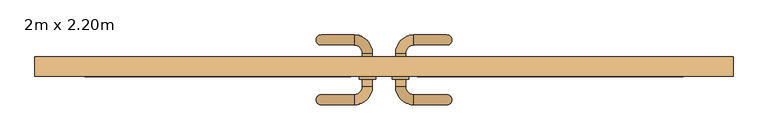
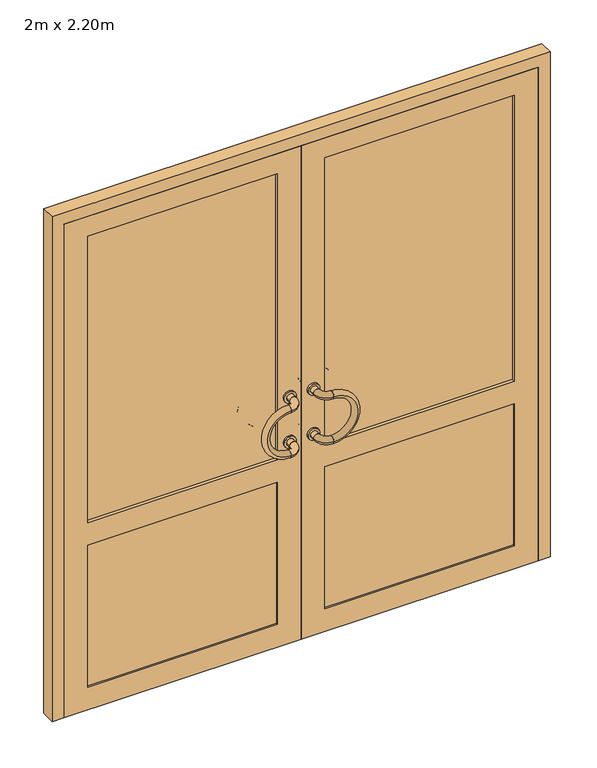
"""IFC4 building model written with IfcOpenShell, lengths in millimetres: door geometry, PVC Double - Panneaux vitrés haut : 2m x 2.20m."""

from ifc_helpers import new_model, si_unit, point, frame, frame_2d, origin, place, context, project, spatial, polyline, circle_curve, ellipse_curve, trimmed, segment, composite_curve, outline, extrude, faceted_brep, source, transform, mapped, element, save
from ifc_brep_helpers import plane_surface, revolved_surface, advanced_brep


def door_2m_x_2_20m_0dc4434d(model_context):
    return source(origin(), model_context, "Body", "SolidModel", [
        extrude(outline(composite_curve([segment(trimmed(circle_curve(frame_2d((1100.0, -50.0)), 25.0), [point((1100.0, -25.0))], [point((1100.0, -75.0))], False, "CARTESIAN"), True, "CONTINUOUS"), segment(trimmed(circle_curve(frame_2d((1100.0, -50.0)), 25.0), [point((1100.0, -75.0))], [point((1100.0, -25.0))], False, "CARTESIAN"), True, "CONTINUOUS")], self_intersect=False), holes=[composite_curve([segment(trimmed(circle_curve(frame_2d((1100.0, -50.0)), 15.0), [point((1100.0, -35.0))], [point((1100.0, -65.0))], True, "CARTESIAN"), True, "CONTINUOUS"), segment(trimmed(circle_curve(frame_2d((1100.0, -50.0)), 15.0), [point((1100.0, -65.0))], [point((1100.0, -35.0))], True, "CARTESIAN"), True, "CONTINUOUS")], self_intersect=False)]), frame((0.0, 5.0, 0.0), z_axis=(0.0, 1.0, 0.0), x_axis=(0.0, 0.0, 1.0)), (0.0, 0.0, 1.0), 8.0),
        extrude(outline(composite_curve([segment(trimmed(circle_curve(frame_2d((900.0, -50.0)), 25.0), [point((900.0, -25.0))], [point((900.0, -75.0))], False, "CARTESIAN"), True, "CONTINUOUS"), segment(trimmed(circle_curve(frame_2d((900.0, -50.0)), 25.0), [point((900.0, -75.0))], [point((900.0, -25.0))], False, "CARTESIAN"), True, "CONTINUOUS")], self_intersect=False), holes=[composite_curve([segment(trimmed(circle_curve(frame_2d((900.0, -50.0)), 15.0), [point((900.0, -35.0))], [point((900.0, -65.0))], True, "CARTESIAN"), True, "CONTINUOUS"), segment(trimmed(circle_curve(frame_2d((900.0, -50.0)), 15.0), [point((900.0, -65.0))], [point((900.0, -35.0))], True, "CARTESIAN"), True, "CONTINUOUS")], self_intersect=False)]), frame((0.0, 5.0, 0.0), z_axis=(0.0, 1.0, 0.0), x_axis=(0.0, 0.0, 1.0)), (0.0, 0.0, 1.0), 8.0),
        extrude(outline(composite_curve([segment(trimmed(circle_curve(frame_2d((1100.0, -50.0)), 25.0), [point((1100.0, -25.0))], [point((1100.0, -75.0))], False, "CARTESIAN"), True, "CONTINUOUS"), segment(trimmed(circle_curve(frame_2d((1100.0, -50.0)), 25.0), [point((1100.0, -75.0))], [point((1100.0, -25.0))], False, "CARTESIAN"), True, "CONTINUOUS")], self_intersect=False), holes=[composite_curve([segment(trimmed(circle_curve(frame_2d((1100.0, -50.0)), 15.0), [point((1100.0, -35.0))], [point((1100.0, -65.0))], True, "CARTESIAN"), True, "CONTINUOUS"), segment(trimmed(circle_curve(frame_2d((1100.0, -50.0)), 15.0), [point((1100.0, -65.0))], [point((1100.0, -35.0))], True, "CARTESIAN"), True, "CONTINUOUS")], self_intersect=False)]), frame((0.0, -43.0, 0.0), z_axis=(0.0, 1.0, 0.0), x_axis=(0.0, 0.0, 1.0)), (0.0, 0.0, 1.0), 8.0),
        extrude(outline(composite_curve([segment(trimmed(circle_curve(frame_2d((900.0, -50.0)), 25.0), [point((900.0, -25.0))], [point((900.0, -75.0))], False, "CARTESIAN"), True, "CONTINUOUS"), segment(trimmed(circle_curve(frame_2d((900.0, -50.0)), 25.0), [point((900.0, -75.0))], [point((900.0, -25.0))], False, "CARTESIAN"), True, "CONTINUOUS")], self_intersect=False), holes=[composite_curve([segment(trimmed(circle_curve(frame_2d((900.0, -50.0)), 15.0), [point((900.0, -35.0))], [point((900.0, -65.0))], True, "CARTESIAN"), True, "CONTINUOUS"), segment(trimmed(circle_curve(frame_2d((900.0, -50.0)), 15.0), [point((900.0, -65.0))], [point((900.0, -35.0))], True, "CARTESIAN"), True, "CONTINUOUS")], self_intersect=False)]), frame((0.0, -43.0, 0.0), z_axis=(0.0, 1.0, 0.0), x_axis=(0.0, 0.0, 1.0)), (0.0, 0.0, 1.0), 8.0),
        advanced_brep(
        [(-90.0, 90.0, 1100.0), (-90.0, 60.0, 1100.0), (-90.0, 90.0, 900.0), (-90.0, 60.0, 900.0)],
        [
            (0, 1, circle_curve(frame((-90.0, 75.0, 1100.0), z_axis=(1.0, 0.0, 0.0), x_axis=(0.0, -1.0, 0.0)), 15.0)),
            (1, 0, circle_curve(frame((-90.0, 75.0, 1100.0), z_axis=(1.0, 0.0, 0.0), x_axis=(0.0, -1.0, 0.0)), 15.0)),
            (2, 3, circle_curve(frame((-90.0, 75.0, 900.0), z_axis=(1.0, 0.0, 0.0), x_axis=(0.0, -1.0, 0.0)), 15.0)),
            (3, 2, circle_curve(frame((-90.0, 75.0, 900.0), z_axis=(1.0, 0.0, 0.0), x_axis=(0.0, -1.0, 0.0)), 15.0)),
            (2, 0, circle_curve(frame((-90.0, 90.0, 1000.0), z_axis=(0.0, 1.0, 0.0), x_axis=(0.0, 0.0, 1.0)), 100.0)),
            (1, 3, circle_curve(frame((-90.0, 60.0, 1000.0), z_axis=(0.0, -1.0, 0.0), x_axis=(0.0, 0.0, 1.0)), 100.0)),
        ],
        [
            plane_surface(frame((-90.0, 75.0, 1000.0), z_axis=(1.0, 0.0, 0.0), x_axis=(0.0, 0.0, 1.0))),
            plane_surface(frame((-90.0, 75.0, 1000.0), z_axis=(1.0, 0.0, 0.0), x_axis=(0.0, 0.0, -1.0))),
            revolved_surface(trimmed(ellipse_curve(frame((-90.0, 75.0, 1100.0), z_axis=(-1.0, 0.0, 0.0), x_axis=(0.0, -1.0, 0.0)), 15.0, 15.0), [point((-90.0, 90.0, 1100.0))], [point((-90.0, 60.0, 1100.0))], True, "CARTESIAN"), (-90.0, 75.0, 1000.0), (0.0, 1.0, 0.0)),
            revolved_surface(trimmed(ellipse_curve(frame((-90.0, 75.0, 1100.0), z_axis=(-1.0, 0.0, 0.0), x_axis=(0.0, -1.0, 0.0)), 15.0, 15.0), [point((-90.0, 60.0, 1100.0))], [point((-90.0, 90.0, 1100.0))], True, "CARTESIAN"), (-90.0, 75.0, 1000.0), (0.0, 1.0, 0.0)),
        ],
        [
            (0, [[1, 2]]),
            (1, [[3, 4]]),
            (2, [[-3, 5, -2, 6]]),
            (3, [[-4, -6, -1, -5]]),
        ],
    ),
        advanced_brep(
        [(-65.0, 35.0, 1100.0), (-35.0, 35.0, 1100.0), (-90.0, 60.0, 1100.0), (-90.0, 90.0, 1100.0)],
        [
            (0, 1, circle_curve(frame((-50.0, 35.0, 1100.0), z_axis=(0.0, -1.0, 0.0), x_axis=(1.0, 0.0, 0.0)), 15.0)),
            (1, 0, circle_curve(frame((-50.0, 35.0, 1100.0), z_axis=(0.0, -1.0, 0.0), x_axis=(1.0, 0.0, 0.0)), 15.0)),
            (2, 3, circle_curve(frame((-90.0, 75.0, 1100.0), z_axis=(-1.0, 0.0, 0.0), x_axis=(0.0, 1.0, 0.0)), 15.0)),
            (3, 2, circle_curve(frame((-90.0, 75.0, 1100.0), z_axis=(-1.0, 0.0, 0.0), x_axis=(0.0, 1.0, 0.0)), 15.0)),
            (2, 0, circle_curve(frame((-90.0, 35.0, 1100.0), z_axis=(0.0, 0.0, -1.0), x_axis=(1.0, 0.0, 0.0)), 25.0)),
            (1, 3, circle_curve(frame((-90.0, 35.0, 1100.0), z_axis=(0.0, 0.0, 1.0), x_axis=(1.0, 0.0, 0.0)), 55.0)),
        ],
        [
            plane_surface(frame((-90.0, 35.0, 1100.0), z_axis=(0.0, -1.0, 0.0), x_axis=(1.0, 0.0, 0.0))),
            plane_surface(frame((-90.0, 35.0, 1100.0), z_axis=(-1.0, 0.0, 0.0), x_axis=(0.0, 1.0, 0.0))),
            revolved_surface(trimmed(ellipse_curve(frame((-50.0, 35.0, 1100.0), z_axis=(0.0, 1.0, 0.0), x_axis=(1.0, 0.0, 0.0)), 15.0, 15.0), [point((-65.0, 35.0, 1100.0))], [point((-35.0, 35.0, 1100.0))], True, "CARTESIAN"), (-90.0, 35.0, 1100.0), (0.0, 0.0, -1.0)),
            revolved_surface(trimmed(ellipse_curve(frame((-50.0, 35.0, 1100.0), z_axis=(0.0, 1.0, 0.0), x_axis=(1.0, 0.0, 0.0)), 15.0, 15.0), [point((-35.0, 35.0, 1100.0))], [point((-65.0, 35.0, 1100.0))], True, "CARTESIAN"), (-90.0, 35.0, 1100.0), (0.0, 0.0, -1.0)),
        ],
        [
            (0, [[1, 2]]),
            (1, [[3, 4]]),
            (2, [[-3, 5, -2, 6]]),
            (3, [[-4, -6, -1, -5]]),
        ],
    ),
        advanced_brep(
        [(-65.0, 35.0, 900.0), (-35.0, 35.0, 900.0), (-90.0, 60.0, 900.0), (-90.0, 90.0, 900.0)],
        [
            (0, 1, circle_curve(frame((-50.0, 35.0, 900.0), z_axis=(0.0, -1.0, 0.0), x_axis=(1.0, 0.0, 0.0)), 15.0)),
            (1, 0, circle_curve(frame((-50.0, 35.0, 900.0), z_axis=(0.0, -1.0, 0.0), x_axis=(1.0, 0.0, 0.0)), 15.0)),
            (2, 3, circle_curve(frame((-90.0, 75.0, 900.0), z_axis=(-1.0, 0.0, 0.0), x_axis=(0.0, 1.0, 0.0)), 15.0)),
            (3, 2, circle_curve(frame((-90.0, 75.0, 900.0), z_axis=(-1.0, 0.0, 0.0), x_axis=(0.0, 1.0, 0.0)), 15.0)),
            (2, 0, circle_curve(frame((-90.0, 35.0, 900.0), z_axis=(0.0, 0.0, -1.0), x_axis=(1.0, 0.0, 0.0)), 25.0)),
            (1, 3, circle_curve(frame((-90.0, 35.0, 900.0), z_axis=(0.0, 0.0, 1.0), x_axis=(1.0, 0.0, 0.0)), 55.0)),
        ],
        [
            plane_surface(frame((-90.0, 35.0, 1100.0), z_axis=(0.0, -1.0, 0.0), x_axis=(1.0, 0.0, 0.0))),
            plane_surface(frame((-90.0, 35.0, 1100.0), z_axis=(-1.0, 0.0, 0.0), x_axis=(0.0, 1.0, 0.0))),
            revolved_surface(trimmed(ellipse_curve(frame((-50.0, 35.0, 900.0), z_axis=(0.0, 1.0, 0.0), x_axis=(1.0, 0.0, 0.0)), 15.0, 15.0), [point((-65.0, 35.0, 900.0))], [point((-35.0, 35.0, 900.0))], True, "CARTESIAN"), (-90.0, 35.0, 1100.0), (0.0, 0.0, -1.0)),
            revolved_surface(trimmed(ellipse_curve(frame((-50.0, 35.0, 900.0), z_axis=(0.0, 1.0, 0.0), x_axis=(1.0, 0.0, 0.0)), 15.0, 15.0), [point((-35.0, 35.0, 900.0))], [point((-65.0, 35.0, 900.0))], True, "CARTESIAN"), (-90.0, 35.0, 1100.0), (0.0, 0.0, -1.0)),
        ],
        [
            (0, [[1, 2]]),
            (1, [[3, 4]]),
            (2, [[-3, 5, -2, 6]]),
            (3, [[-4, -6, -1, -5]]),
        ],
    ),
        extrude(outline(composite_curve([segment(trimmed(circle_curve(frame_2d((1100.0, -50.0)), 15.0), [point((1100.0, -35.0))], [point((1100.0, -65.0))], False, "CARTESIAN"), True, "CONTINUOUS"), segment(trimmed(circle_curve(frame_2d((1100.0, -50.0)), 15.0), [point((1100.0, -65.0))], [point((1100.0, -35.0))], False, "CARTESIAN"), True, "CONTINUOUS")], self_intersect=False)), frame((0.0, 5.0, 0.0), z_axis=(0.0, 1.0, 0.0), x_axis=(0.0, 0.0, 1.0)), (0.0, 0.0, 1.0), 30.0),
        extrude(outline(composite_curve([segment(trimmed(circle_curve(frame_2d((900.0, -50.0)), 15.0), [point((900.0, -35.0))], [point((900.0, -65.0))], False, "CARTESIAN"), True, "CONTINUOUS"), segment(trimmed(circle_curve(frame_2d((900.0, -50.0)), 15.0), [point((900.0, -65.0))], [point((900.0, -35.0))], False, "CARTESIAN"), True, "CONTINUOUS")], self_intersect=False)), frame((0.0, 5.0, 0.0), z_axis=(0.0, 1.0, 0.0), x_axis=(0.0, 0.0, 1.0)), (0.0, 0.0, 1.0), 30.0),
        advanced_brep(
        [(-90.0, -90.0, 1100.0), (-90.0, -120.0, 1100.0), (-90.0, -90.0, 900.0), (-90.0, -120.0, 900.0)],
        [
            (0, 1, circle_curve(frame((-90.0, -105.0, 1100.0), z_axis=(1.0, 0.0, 0.0), x_axis=(0.0, -1.0, 0.0)), 15.0)),
            (1, 0, circle_curve(frame((-90.0, -105.0, 1100.0), z_axis=(1.0, 0.0, 0.0), x_axis=(0.0, -1.0, 0.0)), 15.0)),
            (2, 3, circle_curve(frame((-90.0, -105.0, 900.0), z_axis=(1.0, 0.0, 0.0), x_axis=(0.0, -1.0, 0.0)), 15.0)),
            (3, 2, circle_curve(frame((-90.0, -105.0, 900.0), z_axis=(1.0, 0.0, 0.0), x_axis=(0.0, -1.0, 0.0)), 15.0)),
            (2, 0, circle_curve(frame((-90.0, -90.0, 1000.0), z_axis=(0.0, 1.0, 0.0), x_axis=(0.0, 0.0, 1.0)), 100.0)),
            (1, 3, circle_curve(frame((-90.0, -120.0, 1000.0), z_axis=(0.0, -1.0, 0.0), x_axis=(0.0, 0.0, 1.0)), 100.0)),
        ],
        [
            plane_surface(frame((-90.0, -120.0, 1000.0), z_axis=(1.0, 0.0, 0.0), x_axis=(0.0, 0.0, 1.0))),
            plane_surface(frame((-90.0, -120.0, 1000.0), z_axis=(1.0, 0.0, 0.0), x_axis=(0.0, 0.0, -1.0))),
            revolved_surface(trimmed(ellipse_curve(frame((-90.0, -105.0, 1100.0), z_axis=(-1.0, 0.0, 0.0), x_axis=(0.0, -1.0, 0.0)), 15.0, 15.0), [point((-90.0, -90.0, 1100.0))], [point((-90.0, -120.0, 1100.0))], True, "CARTESIAN"), (-90.0, -120.0, 1000.0), (0.0, 1.0, 0.0)),
            revolved_surface(trimmed(ellipse_curve(frame((-90.0, -105.0, 1100.0), z_axis=(-1.0, 0.0, 0.0), x_axis=(0.0, -1.0, 0.0)), 15.0, 15.0), [point((-90.0, -120.0, 1100.0))], [point((-90.0, -90.0, 1100.0))], True, "CARTESIAN"), (-90.0, -120.0, 1000.0), (0.0, 1.0, 0.0)),
        ],
        [
            (0, [[1, 2]]),
            (1, [[3, 4]]),
            (2, [[-3, 5, -2, 6]]),
            (3, [[-4, -6, -1, -5]]),
        ],
    ),
        advanced_brep(
        [(-35.0, -65.0, 1100.0), (-65.0, -65.0, 1100.0), (-90.0, -120.0, 1100.0), (-90.0, -90.0, 1100.0)],
        [
            (0, 1, circle_curve(frame((-50.0, -65.0, 1100.0), z_axis=(0.0, 1.0, 0.0), x_axis=(-1.0, 0.0, 0.0)), 15.0)),
            (1, 0, circle_curve(frame((-50.0, -65.0, 1100.0), z_axis=(0.0, 1.0, 0.0), x_axis=(-1.0, 0.0, 0.0)), 15.0)),
            (2, 3, circle_curve(frame((-90.0, -105.0, 1100.0), z_axis=(-1.0, 0.0, 0.0), x_axis=(0.0, 1.0, 0.0)), 15.0)),
            (3, 2, circle_curve(frame((-90.0, -105.0, 1100.0), z_axis=(-1.0, 0.0, 0.0), x_axis=(0.0, 1.0, 0.0)), 15.0)),
            (2, 0, circle_curve(frame((-90.0, -65.0, 1100.0), z_axis=(0.0, 0.0, 1.0), x_axis=(1.0, 0.0, 0.0)), 55.0)),
            (1, 3, circle_curve(frame((-90.0, -65.0, 1100.0), z_axis=(0.0, 0.0, -1.0), x_axis=(1.0, 0.0, 0.0)), 25.0)),
        ],
        [
            plane_surface(frame((-90.0, -65.0, 1100.0), z_axis=(0.0, 1.0, 0.0), x_axis=(1.0, 0.0, 0.0))),
            plane_surface(frame((-90.0, -65.0, 1100.0), z_axis=(-1.0, 0.0, 0.0), x_axis=(0.0, -1.0, 0.0))),
            revolved_surface(trimmed(ellipse_curve(frame((-50.0, -65.0, 1100.0), z_axis=(0.0, -1.0, 0.0), x_axis=(-1.0, 0.0, 0.0)), 15.0, 15.0), [point((-35.0, -65.0, 1100.0))], [point((-65.0, -65.0, 1100.0))], True, "CARTESIAN"), (-90.0, -65.0, 1100.0), (0.0, 0.0, 1.0)),
            revolved_surface(trimmed(ellipse_curve(frame((-50.0, -65.0, 1100.0), z_axis=(0.0, -1.0, 0.0), x_axis=(-1.0, 0.0, 0.0)), 15.0, 15.0), [point((-65.0, -65.0, 1100.0))], [point((-35.0, -65.0, 1100.0))], True, "CARTESIAN"), (-90.0, -65.0, 1100.0), (0.0, 0.0, 1.0)),
        ],
        [
            (0, [[1, 2]]),
            (1, [[3, 4]]),
            (2, [[-3, 5, -2, 6]]),
            (3, [[-4, -6, -1, -5]]),
        ],
    ),
        advanced_brep(
        [(-35.0, -65.0, 900.0), (-65.0, -65.0, 900.0), (-90.0, -120.0, 900.0), (-90.0, -90.0, 900.0)],
        [
            (0, 1, circle_curve(frame((-50.0, -65.0, 900.0), z_axis=(0.0, 1.0, 0.0), x_axis=(-1.0, 0.0, 0.0)), 15.0)),
            (1, 0, circle_curve(frame((-50.0, -65.0, 900.0), z_axis=(0.0, 1.0, 0.0), x_axis=(-1.0, 0.0, 0.0)), 15.0)),
            (2, 3, circle_curve(frame((-90.0, -105.0, 900.0), z_axis=(-1.0, 0.0, 0.0), x_axis=(0.0, 1.0, 0.0)), 15.0)),
            (3, 2, circle_curve(frame((-90.0, -105.0, 900.0), z_axis=(-1.0, 0.0, 0.0), x_axis=(0.0, 1.0, 0.0)), 15.0)),
            (2, 0, circle_curve(frame((-90.0, -65.0, 900.0), z_axis=(0.0, 0.0, 1.0), x_axis=(1.0, 0.0, 0.0)), 55.0)),
            (1, 3, circle_curve(frame((-90.0, -65.0, 900.0), z_axis=(0.0, 0.0, -1.0), x_axis=(1.0, 0.0, 0.0)), 25.0)),
        ],
        [
            plane_surface(frame((-90.0, -65.0, 1100.0), z_axis=(0.0, 1.0, 0.0), x_axis=(1.0, 0.0, 0.0))),
            plane_surface(frame((-90.0, -65.0, 1100.0), z_axis=(-1.0, 0.0, 0.0), x_axis=(0.0, -1.0, 0.0))),
            revolved_surface(trimmed(ellipse_curve(frame((-50.0, -65.0, 900.0), z_axis=(0.0, -1.0, 0.0), x_axis=(-1.0, 0.0, 0.0)), 15.0, 15.0), [point((-35.0, -65.0, 900.0))], [point((-65.0, -65.0, 900.0))], True, "CARTESIAN"), (-90.0, -65.0, 1100.0), (0.0, 0.0, 1.0)),
            revolved_surface(trimmed(ellipse_curve(frame((-50.0, -65.0, 900.0), z_axis=(0.0, -1.0, 0.0), x_axis=(-1.0, 0.0, 0.0)), 15.0, 15.0), [point((-65.0, -65.0, 900.0))], [point((-35.0, -65.0, 900.0))], True, "CARTESIAN"), (-90.0, -65.0, 1100.0), (0.0, 0.0, 1.0)),
        ],
        [
            (0, [[1, 2]]),
            (1, [[3, 4]]),
            (2, [[-3, 5, -2, 6]]),
            (3, [[-4, -6, -1, -5]]),
        ],
    ),
        extrude(outline(composite_curve([segment(trimmed(circle_curve(frame_2d((1100.0, -50.0)), 15.0), [point((1100.0, -35.0))], [point((1100.0, -65.0))], False, "CARTESIAN"), True, "CONTINUOUS"), segment(trimmed(circle_curve(frame_2d((1100.0, -50.0)), 15.0), [point((1100.0, -65.0))], [point((1100.0, -35.0))], False, "CARTESIAN"), True, "CONTINUOUS")], self_intersect=False)), frame((0.0, -65.0, 0.0), z_axis=(0.0, 1.0, 0.0), x_axis=(0.0, 0.0, 1.0)), (0.0, 0.0, 1.0), 30.0),
        extrude(outline(composite_curve([segment(trimmed(circle_curve(frame_2d((900.0, -50.0)), 15.0), [point((900.0, -35.0))], [point((900.0, -65.0))], False, "CARTESIAN"), True, "CONTINUOUS"), segment(trimmed(circle_curve(frame_2d((900.0, -50.0)), 15.0), [point((900.0, -65.0))], [point((900.0, -35.0))], False, "CARTESIAN"), True, "CONTINUOUS")], self_intersect=False)), frame((0.0, -65.0, 0.0), z_axis=(0.0, 1.0, 0.0), x_axis=(0.0, 0.0, 1.0)), (0.0, 0.0, 1.0), 30.0),
        extrude(outline(composite_curve([segment(trimmed(circle_curve(frame_2d((1100.0, 50.0)), 25.0), [point((1100.0, 25.0))], [point((1100.0, 75.0))], False, "CARTESIAN"), True, "CONTINUOUS"), segment(trimmed(circle_curve(frame_2d((1100.0, 50.0)), 25.0), [point((1100.0, 75.0))], [point((1100.0, 25.0))], False, "CARTESIAN"), True, "CONTINUOUS")], self_intersect=False), holes=[composite_curve([segment(trimmed(circle_curve(frame_2d((1100.0, 50.0)), 15.0), [point((1100.0, 35.0))], [point((1100.0, 65.0))], True, "CARTESIAN"), True, "CONTINUOUS"), segment(trimmed(circle_curve(frame_2d((1100.0, 50.0)), 15.0), [point((1100.0, 65.0))], [point((1100.0, 35.0))], True, "CARTESIAN"), True, "CONTINUOUS")], self_intersect=False)]), frame((0.0, 5.0, 0.0), z_axis=(0.0, 1.0, 0.0), x_axis=(0.0, 0.0, 1.0)), (0.0, 0.0, 1.0), 8.0),
        extrude(outline(composite_curve([segment(trimmed(circle_curve(frame_2d((900.0, 50.0)), 25.0), [point((900.0, 25.0))], [point((900.0, 75.0))], False, "CARTESIAN"), True, "CONTINUOUS"), segment(trimmed(circle_curve(frame_2d((900.0, 50.0)), 25.0), [point((900.0, 75.0))], [point((900.0, 25.0))], False, "CARTESIAN"), True, "CONTINUOUS")], self_intersect=False), holes=[composite_curve([segment(trimmed(circle_curve(frame_2d((900.0, 50.0)), 15.0), [point((900.0, 35.0))], [point((900.0, 65.0))], True, "CARTESIAN"), True, "CONTINUOUS"), segment(trimmed(circle_curve(frame_2d((900.0, 50.0)), 15.0), [point((900.0, 65.0))], [point((900.0, 35.0))], True, "CARTESIAN"), True, "CONTINUOUS")], self_intersect=False)]), frame((0.0, 5.0, 0.0), z_axis=(0.0, 1.0, 0.0), x_axis=(0.0, 0.0, 1.0)), (0.0, 0.0, 1.0), 8.0),
        extrude(outline(composite_curve([segment(trimmed(circle_curve(frame_2d((1100.0, 50.0)), 25.0), [point((1100.0, 25.0))], [point((1100.0, 75.0))], False, "CARTESIAN"), True, "CONTINUOUS"), segment(trimmed(circle_curve(frame_2d((1100.0, 50.0)), 25.0), [point((1100.0, 75.0))], [point((1100.0, 25.0))], False, "CARTESIAN"), True, "CONTINUOUS")], self_intersect=False), holes=[composite_curve([segment(trimmed(circle_curve(frame_2d((1100.0, 50.0)), 15.0), [point((1100.0, 35.0))], [point((1100.0, 65.0))], True, "CARTESIAN"), True, "CONTINUOUS"), segment(trimmed(circle_curve(frame_2d((1100.0, 50.0)), 15.0), [point((1100.0, 65.0))], [point((1100.0, 35.0))], True, "CARTESIAN"), True, "CONTINUOUS")], self_intersect=False)]), frame((0.0, -43.0, 0.0), z_axis=(0.0, 1.0, 0.0), x_axis=(0.0, 0.0, 1.0)), (0.0, 0.0, 1.0), 8.0),
        extrude(outline(composite_curve([segment(trimmed(circle_curve(frame_2d((900.0, 50.0)), 25.0), [point((900.0, 25.0))], [point((900.0, 75.0))], False, "CARTESIAN"), True, "CONTINUOUS"), segment(trimmed(circle_curve(frame_2d((900.0, 50.0)), 25.0), [point((900.0, 75.0))], [point((900.0, 25.0))], False, "CARTESIAN"), True, "CONTINUOUS")], self_intersect=False), holes=[composite_curve([segment(trimmed(circle_curve(frame_2d((900.0, 50.0)), 15.0), [point((900.0, 35.0))], [point((900.0, 65.0))], True, "CARTESIAN"), True, "CONTINUOUS"), segment(trimmed(circle_curve(frame_2d((900.0, 50.0)), 15.0), [point((900.0, 65.0))], [point((900.0, 35.0))], True, "CARTESIAN"), True, "CONTINUOUS")], self_intersect=False)]), frame((0.0, -43.0, 0.0), z_axis=(0.0, 1.0, 0.0), x_axis=(0.0, 0.0, 1.0)), (0.0, 0.0, 1.0), 8.0),
        advanced_brep(
        [(90.0, 90.0, 1100.0), (90.0, 60.0, 1100.0), (90.0, 90.0, 900.0), (90.0, 60.0, 900.0)],
        [
            (0, 1, circle_curve(frame((90.0, 75.0, 1100.0), z_axis=(-1.0, 0.0, 0.0), x_axis=(0.0, -1.0, 0.0)), 15.0)),
            (1, 0, circle_curve(frame((90.0, 75.0, 1100.0), z_axis=(-1.0, 0.0, 0.0), x_axis=(0.0, -1.0, 0.0)), 15.0)),
            (2, 3, circle_curve(frame((90.0, 75.0, 900.0), z_axis=(-1.0, 0.0, 0.0), x_axis=(0.0, -1.0, 0.0)), 15.0)),
            (3, 2, circle_curve(frame((90.0, 75.0, 900.0), z_axis=(-1.0, 0.0, 0.0), x_axis=(0.0, -1.0, 0.0)), 15.0)),
            (3, 1, circle_curve(frame((90.0, 60.0, 1000.0), z_axis=(0.0, -1.0, 0.0), x_axis=(0.0, 0.0, 1.0)), 100.0)),
            (0, 2, circle_curve(frame((90.0, 90.0, 1000.0), z_axis=(0.0, 1.0, 0.0), x_axis=(0.0, 0.0, 1.0)), 100.0)),
        ],
        [
            plane_surface(frame((90.0, 75.0, 1000.0), z_axis=(-1.0, 0.0, 0.0), x_axis=(0.0, 0.0, 1.0))),
            plane_surface(frame((90.0, 75.0, 1000.0), z_axis=(-1.0, 0.0, 0.0), x_axis=(0.0, 0.0, -1.0))),
            revolved_surface(trimmed(ellipse_curve(frame((90.0, 75.0, 1100.0), z_axis=(-1.0, 0.0, 0.0), x_axis=(0.0, -1.0, 0.0)), 15.0, 15.0), [point((90.0, 90.0, 1100.0))], [point((90.0, 60.0, 1100.0))], True, "CARTESIAN"), (90.0, 75.0, 1000.0), (0.0, 1.0, 0.0)),
            revolved_surface(trimmed(ellipse_curve(frame((90.0, 75.0, 1100.0), z_axis=(-1.0, 0.0, 0.0), x_axis=(0.0, -1.0, 0.0)), 15.0, 15.0), [point((90.0, 60.0, 1100.0))], [point((90.0, 90.0, 1100.0))], True, "CARTESIAN"), (90.0, 75.0, 1000.0), (0.0, 1.0, 0.0)),
        ],
        [
            (0, [[1, 2]]),
            (1, [[3, 4]]),
            (2, [[5, -1, 6, -4]]),
            (3, [[-6, -2, -5, -3]]),
        ],
    ),
        advanced_brep(
        [(65.0, 35.0, 1100.0), (35.0, 35.0, 1100.0), (90.0, 60.0, 1100.0), (90.0, 90.0, 1100.0)],
        [
            (0, 1, circle_curve(frame((50.0, 35.0, 1100.0), z_axis=(0.0, -1.0, 0.0), x_axis=(-1.0, 0.0, 0.0)), 15.0)),
            (1, 0, circle_curve(frame((50.0, 35.0, 1100.0), z_axis=(0.0, -1.0, 0.0), x_axis=(-1.0, 0.0, 0.0)), 15.0)),
            (2, 3, circle_curve(frame((90.0, 75.0, 1100.0), z_axis=(1.0, 0.0, 0.0), x_axis=(0.0, 1.0, 0.0)), 15.0)),
            (3, 2, circle_curve(frame((90.0, 75.0, 1100.0), z_axis=(1.0, 0.0, 0.0), x_axis=(0.0, 1.0, 0.0)), 15.0)),
            (3, 1, circle_curve(frame((90.0, 35.0, 1100.0), z_axis=(0.0, 0.0, 1.0), x_axis=(-1.0, 0.0, 0.0)), 55.0)),
            (0, 2, circle_curve(frame((90.0, 35.0, 1100.0), z_axis=(0.0, 0.0, -1.0), x_axis=(-1.0, 0.0, 0.0)), 25.0)),
        ],
        [
            plane_surface(frame((90.0, 35.0, 1100.0), z_axis=(0.0, -1.0, 0.0), x_axis=(-1.0, 0.0, 0.0))),
            plane_surface(frame((90.0, 35.0, 1100.0), z_axis=(1.0, 0.0, 0.0), x_axis=(0.0, 1.0, 0.0))),
            revolved_surface(trimmed(ellipse_curve(frame((50.0, 35.0, 1100.0), z_axis=(0.0, -1.0, 0.0), x_axis=(-1.0, 0.0, 0.0)), 15.0, 15.0), [point((65.0, 35.0, 1100.0))], [point((35.0, 35.0, 1100.0))], True, "CARTESIAN"), (90.0, 35.0, 1100.0), (0.0, 0.0, -1.0)),
            revolved_surface(trimmed(ellipse_curve(frame((50.0, 35.0, 1100.0), z_axis=(0.0, -1.0, 0.0), x_axis=(-1.0, 0.0, 0.0)), 15.0, 15.0), [point((35.0, 35.0, 1100.0))], [point((65.0, 35.0, 1100.0))], True, "CARTESIAN"), (90.0, 35.0, 1100.0), (0.0, 0.0, -1.0)),
        ],
        [
            (0, [[1, 2]]),
            (1, [[3, 4]]),
            (2, [[5, -1, 6, -4]]),
            (3, [[-6, -2, -5, -3]]),
        ],
    ),
        advanced_brep(
        [(65.0, 35.0, 900.0), (35.0, 35.0, 900.0), (90.0, 60.0, 900.0), (90.0, 90.0, 900.0)],
        [
            (0, 1, circle_curve(frame((50.0, 35.0, 900.0), z_axis=(0.0, -1.0, 0.0), x_axis=(-1.0, 0.0, 0.0)), 15.0)),
            (1, 0, circle_curve(frame((50.0, 35.0, 900.0), z_axis=(0.0, -1.0, 0.0), x_axis=(-1.0, 0.0, 0.0)), 15.0)),
            (2, 3, circle_curve(frame((90.0, 75.0, 900.0), z_axis=(1.0, 0.0, 0.0), x_axis=(0.0, 1.0, 0.0)), 15.0)),
            (3, 2, circle_curve(frame((90.0, 75.0, 900.0), z_axis=(1.0, 0.0, 0.0), x_axis=(0.0, 1.0, 0.0)), 15.0)),
            (3, 1, circle_curve(frame((90.0, 35.0, 900.0), z_axis=(0.0, 0.0, 1.0), x_axis=(-1.0, 0.0, 0.0)), 55.0)),
            (0, 2, circle_curve(frame((90.0, 35.0, 900.0), z_axis=(0.0, 0.0, -1.0), x_axis=(-1.0, 0.0, 0.0)), 25.0)),
        ],
        [
            plane_surface(frame((90.0, 35.0, 1100.0), z_axis=(0.0, -1.0, 0.0), x_axis=(-1.0, 0.0, 0.0))),
            plane_surface(frame((90.0, 35.0, 1100.0), z_axis=(1.0, 0.0, 0.0), x_axis=(0.0, 1.0, 0.0))),
            revolved_surface(trimmed(ellipse_curve(frame((50.0, 35.0, 900.0), z_axis=(0.0, -1.0, 0.0), x_axis=(-1.0, 0.0, 0.0)), 15.0, 15.0), [point((65.0, 35.0, 900.0))], [point((35.0, 35.0, 900.0))], True, "CARTESIAN"), (90.0, 35.0, 1100.0), (0.0, 0.0, -1.0)),
            revolved_surface(trimmed(ellipse_curve(frame((50.0, 35.0, 900.0), z_axis=(0.0, -1.0, 0.0), x_axis=(-1.0, 0.0, 0.0)), 15.0, 15.0), [point((35.0, 35.0, 900.0))], [point((65.0, 35.0, 900.0))], True, "CARTESIAN"), (90.0, 35.0, 1100.0), (0.0, 0.0, -1.0)),
        ],
        [
            (0, [[1, 2]]),
            (1, [[3, 4]]),
            (2, [[5, -1, 6, -4]]),
            (3, [[-6, -2, -5, -3]]),
        ],
    ),
        extrude(outline(composite_curve([segment(trimmed(circle_curve(frame_2d((1100.0, 50.0)), 15.0), [point((1100.0, 35.0))], [point((1100.0, 65.0))], False, "CARTESIAN"), True, "CONTINUOUS"), segment(trimmed(circle_curve(frame_2d((1100.0, 50.0)), 15.0), [point((1100.0, 65.0))], [point((1100.0, 35.0))], False, "CARTESIAN"), True, "CONTINUOUS")], self_intersect=False)), frame((0.0, 5.0, 0.0), z_axis=(0.0, 1.0, 0.0), x_axis=(0.0, 0.0, 1.0)), (0.0, 0.0, 1.0), 30.0),
        extrude(outline(composite_curve([segment(trimmed(circle_curve(frame_2d((900.0, 50.0)), 15.0), [point((900.0, 35.0))], [point((900.0, 65.0))], False, "CARTESIAN"), True, "CONTINUOUS"), segment(trimmed(circle_curve(frame_2d((900.0, 50.0)), 15.0), [point((900.0, 65.0))], [point((900.0, 35.0))], False, "CARTESIAN"), True, "CONTINUOUS")], self_intersect=False)), frame((0.0, 5.0, 0.0), z_axis=(0.0, 1.0, 0.0), x_axis=(0.0, 0.0, 1.0)), (0.0, 0.0, 1.0), 30.0),
        advanced_brep(
        [(90.0, -90.0, 1100.0), (90.0, -120.0, 1100.0), (90.0, -90.0, 900.0), (90.0, -120.0, 900.0)],
        [
            (0, 1, circle_curve(frame((90.0, -105.0, 1100.0), z_axis=(-1.0, 0.0, 0.0), x_axis=(0.0, -1.0, 0.0)), 15.0)),
            (1, 0, circle_curve(frame((90.0, -105.0, 1100.0), z_axis=(-1.0, 0.0, 0.0), x_axis=(0.0, -1.0, 0.0)), 15.0)),
            (2, 3, circle_curve(frame((90.0, -105.0, 900.0), z_axis=(-1.0, 0.0, 0.0), x_axis=(0.0, -1.0, 0.0)), 15.0)),
            (3, 2, circle_curve(frame((90.0, -105.0, 900.0), z_axis=(-1.0, 0.0, 0.0), x_axis=(0.0, -1.0, 0.0)), 15.0)),
            (3, 1, circle_curve(frame((90.0, -120.0, 1000.0), z_axis=(0.0, -1.0, 0.0), x_axis=(0.0, 0.0, 1.0)), 100.0)),
            (0, 2, circle_curve(frame((90.0, -90.0, 1000.0), z_axis=(0.0, 1.0, 0.0), x_axis=(0.0, 0.0, 1.0)), 100.0)),
        ],
        [
            plane_surface(frame((90.0, -120.0, 1000.0), z_axis=(-1.0, 0.0, 0.0), x_axis=(0.0, 0.0, 1.0))),
            plane_surface(frame((90.0, -120.0, 1000.0), z_axis=(-1.0, 0.0, 0.0), x_axis=(0.0, 0.0, -1.0))),
            revolved_surface(trimmed(ellipse_curve(frame((90.0, -105.0, 1100.0), z_axis=(-1.0, 0.0, 0.0), x_axis=(0.0, -1.0, 0.0)), 15.0, 15.0), [point((90.0, -90.0, 1100.0))], [point((90.0, -120.0, 1100.0))], True, "CARTESIAN"), (90.0, -120.0, 1000.0), (0.0, 1.0, 0.0)),
            revolved_surface(trimmed(ellipse_curve(frame((90.0, -105.0, 1100.0), z_axis=(-1.0, 0.0, 0.0), x_axis=(0.0, -1.0, 0.0)), 15.0, 15.0), [point((90.0, -120.0, 1100.0))], [point((90.0, -90.0, 1100.0))], True, "CARTESIAN"), (90.0, -120.0, 1000.0), (0.0, 1.0, 0.0)),
        ],
        [
            (0, [[1, 2]]),
            (1, [[3, 4]]),
            (2, [[5, -1, 6, -4]]),
            (3, [[-6, -2, -5, -3]]),
        ],
    ),
        advanced_brep(
        [(35.0, -65.0, 1100.0), (65.0, -65.0, 1100.0), (90.0, -120.0, 1100.0), (90.0, -90.0, 1100.0)],
        [
            (0, 1, circle_curve(frame((50.0, -65.0, 1100.0), z_axis=(0.0, 1.0, 0.0), x_axis=(1.0, 0.0, 0.0)), 15.0)),
            (1, 0, circle_curve(frame((50.0, -65.0, 1100.0), z_axis=(0.0, 1.0, 0.0), x_axis=(1.0, 0.0, 0.0)), 15.0)),
            (2, 3, circle_curve(frame((90.0, -105.0, 1100.0), z_axis=(1.0, 0.0, 0.0), x_axis=(0.0, 1.0, 0.0)), 15.0)),
            (3, 2, circle_curve(frame((90.0, -105.0, 1100.0), z_axis=(1.0, 0.0, 0.0), x_axis=(0.0, 1.0, 0.0)), 15.0)),
            (3, 1, circle_curve(frame((90.0, -65.0, 1100.0), z_axis=(0.0, 0.0, -1.0), x_axis=(-1.0, 0.0, 0.0)), 25.0)),
            (0, 2, circle_curve(frame((90.0, -65.0, 1100.0), z_axis=(0.0, 0.0, 1.0), x_axis=(-1.0, 0.0, 0.0)), 55.0)),
        ],
        [
            plane_surface(frame((90.0, -65.0, 1100.0), z_axis=(0.0, 1.0, 0.0), x_axis=(-1.0, 0.0, 0.0))),
            plane_surface(frame((90.0, -65.0, 1100.0), z_axis=(1.0, 0.0, 0.0), x_axis=(0.0, -1.0, 0.0))),
            revolved_surface(trimmed(ellipse_curve(frame((50.0, -65.0, 1100.0), z_axis=(0.0, 1.0, 0.0), x_axis=(1.0, 0.0, 0.0)), 15.0, 15.0), [point((35.0, -65.0, 1100.0))], [point((65.0, -65.0, 1100.0))], True, "CARTESIAN"), (90.0, -65.0, 1100.0), (0.0, 0.0, 1.0)),
            revolved_surface(trimmed(ellipse_curve(frame((50.0, -65.0, 1100.0), z_axis=(0.0, 1.0, 0.0), x_axis=(1.0, 0.0, 0.0)), 15.0, 15.0), [point((65.0, -65.0, 1100.0))], [point((35.0, -65.0, 1100.0))], True, "CARTESIAN"), (90.0, -65.0, 1100.0), (0.0, 0.0, 1.0)),
        ],
        [
            (0, [[1, 2]]),
            (1, [[3, 4]]),
            (2, [[5, -1, 6, -4]]),
            (3, [[-6, -2, -5, -3]]),
        ],
    ),
        advanced_brep(
        [(35.0, -65.0, 900.0), (65.0, -65.0, 900.0), (90.0, -120.0, 900.0), (90.0, -90.0, 900.0)],
        [
            (0, 1, circle_curve(frame((50.0, -65.0, 900.0), z_axis=(0.0, 1.0, 0.0), x_axis=(1.0, 0.0, 0.0)), 15.0)),
            (1, 0, circle_curve(frame((50.0, -65.0, 900.0), z_axis=(0.0, 1.0, 0.0), x_axis=(1.0, 0.0, 0.0)), 15.0)),
            (2, 3, circle_curve(frame((90.0, -105.0, 900.0), z_axis=(1.0, 0.0, 0.0), x_axis=(0.0, 1.0, 0.0)), 15.0)),
            (3, 2, circle_curve(frame((90.0, -105.0, 900.0), z_axis=(1.0, 0.0, 0.0), x_axis=(0.0, 1.0, 0.0)), 15.0)),
            (3, 1, circle_curve(frame((90.0, -65.0, 900.0), z_axis=(0.0, 0.0, -1.0), x_axis=(-1.0, 0.0, 0.0)), 25.0)),
            (0, 2, circle_curve(frame((90.0, -65.0, 900.0), z_axis=(0.0, 0.0, 1.0), x_axis=(-1.0, 0.0, 0.0)), 55.0)),
        ],
        [
            plane_surface(frame((90.0, -65.0, 1100.0), z_axis=(0.0, 1.0, 0.0), x_axis=(-1.0, 0.0, 0.0))),
            plane_surface(frame((90.0, -65.0, 1100.0), z_axis=(1.0, 0.0, 0.0), x_axis=(0.0, -1.0, 0.0))),
            revolved_surface(trimmed(ellipse_curve(frame((50.0, -65.0, 900.0), z_axis=(0.0, 1.0, 0.0), x_axis=(1.0, 0.0, 0.0)), 15.0, 15.0), [point((35.0, -65.0, 900.0))], [point((65.0, -65.0, 900.0))], True, "CARTESIAN"), (90.0, -65.0, 1100.0), (0.0, 0.0, 1.0)),
            revolved_surface(trimmed(ellipse_curve(frame((50.0, -65.0, 900.0), z_axis=(0.0, 1.0, 0.0), x_axis=(1.0, 0.0, 0.0)), 15.0, 15.0), [point((65.0, -65.0, 900.0))], [point((35.0, -65.0, 900.0))], True, "CARTESIAN"), (90.0, -65.0, 1100.0), (0.0, 0.0, 1.0)),
        ],
        [
            (0, [[1, 2]]),
            (1, [[3, 4]]),
            (2, [[5, -1, 6, -4]]),
            (3, [[-6, -2, -5, -3]]),
        ],
    ),
        extrude(outline(composite_curve([segment(trimmed(circle_curve(frame_2d((1100.0, 50.0)), 15.0), [point((1100.0, 35.0))], [point((1100.0, 65.0))], False, "CARTESIAN"), True, "CONTINUOUS"), segment(trimmed(circle_curve(frame_2d((1100.0, 50.0)), 15.0), [point((1100.0, 65.0))], [point((1100.0, 35.0))], False, "CARTESIAN"), True, "CONTINUOUS")], self_intersect=False)), frame((0.0, -65.0, 0.0), z_axis=(0.0, 1.0, 0.0), x_axis=(0.0, 0.0, 1.0)), (0.0, 0.0, 1.0), 30.0),
        extrude(outline(composite_curve([segment(trimmed(circle_curve(frame_2d((900.0, 50.0)), 15.0), [point((900.0, 35.0))], [point((900.0, 65.0))], False, "CARTESIAN"), True, "CONTINUOUS"), segment(trimmed(circle_curve(frame_2d((900.0, 50.0)), 15.0), [point((900.0, 65.0))], [point((900.0, 35.0))], False, "CARTESIAN"), True, "CONTINUOUS")], self_intersect=False)), frame((0.0, -65.0, 0.0), z_axis=(0.0, 1.0, 0.0), x_axis=(0.0, 0.0, 1.0)), (0.0, 0.0, 1.0), 30.0),
        faceted_brep([(-1050.0, -35.0, 0.0), (-1050.0, 25.0, 0.0), (-985.0, 25.0, 0.0), (-985.0, 5.0, 0.0), (-1000.0, 5.0, 0.0), (-1000.0, -35.0, 0.0), (-1050.0, -35.0, 2250.0), (-1050.0, 25.0, 2250.0), (1050.0, 25.0, 2250.0), (1050.0, 25.0, 0.0), (985.0, 25.0, 0.0), (985.0, 25.0, 2185.0), (-985.0, 25.0, 2185.0), (-985.0, 5.0, 2185.0), (985.0, 5.0, 2185.0), (985.0, 5.0, 0.0), (1000.0, 5.0, 0.0), (1000.0, 5.0, 2200.0), (-1000.0, 5.0, 2200.0), (-1000.0, -35.0, 2200.0), (1000.0, -35.0, 2200.0), (1000.0, -35.0, 0.0), (1050.0, -35.0, 0.0), (1050.0, -35.0, 2250.0)], [[[0, 1, 2, 3, 4, 5]], [[1, 0, 6, 7]], [[2, 1, 7, 8, 9, 10, 11, 12]], [[3, 2, 12, 13]], [[4, 3, 13, 14, 15, 16, 17, 18]], [[5, 4, 18, 19]], [[0, 5, 19, 20, 21, 22, 23, 6]], [[9, 8, 23, 22]], [[10, 9, 22, 21, 16, 15]], [[11, 10, 15, 14]], [[17, 16, 21, 20]], [[7, 6, 23, 8]], [[12, 11, 14, 13]], [[18, 17, 20, 19]]]),
        extrude(outline(polyline([(-100.0, -20.0), (-900.0, -20.0), (-900.0, -10.0), (-100.0, -10.0), (-100.0, -20.0)])), frame((0.0, 0.0, 833.3333333), z_axis=(0.0, 0.0, 1.0), x_axis=(1.0, 0.0, 0.0)), (0.0, 0.0, 1.0), 1276.6666667),
        extrude(outline(polyline([(900.0, -20.0), (100.0, -20.0), (100.0, -10.0), (900.0, -10.0), (900.0, -20.0)])), frame((0.0, 0.0, 833.3333333), z_axis=(0.0, 0.0, 1.0), x_axis=(1.0, 0.0, 0.0)), (0.0, 0.0, 1.0), 1276.6666667),
        faceted_brep([(1000.0, -35.0, 2200.0), (0.0, -35.0, 2200.0), (0.0, -35.0, 0.0), (1000.0, -35.0, 0.0), (900.0, -35.0, 2110.0), (900.0, -35.0, 833.3333333), (100.0, -35.0, 833.3333333), (100.0, -35.0, 2110.0), (900.0, -35.0, 100.0), (100.0, -35.0, 100.0), (100.0, -35.0, 733.3333333), (900.0, -35.0, 733.3333333), (1000.0, 5.0, 2200.0), (1000.0, 5.0, 0.0), (0.0, 5.0, 0.0), (0.0, 5.0, 2200.0), (900.0, 5.0, 2110.0), (100.0, 5.0, 2110.0), (100.0, 5.0, 833.3333333), (900.0, 5.0, 833.3333333), (100.0, 5.0, 100.0), (900.0, 5.0, 100.0), (900.0, 5.0, 733.3333333), (100.0, 5.0, 733.3333333), (900.0, -27.0, 100.0), (900.0, -27.0, 733.3333333), (100.0, -27.0, 733.3333333), (100.0, -27.0, 100.0), (100.0, -3.0, 100.0), (100.0, -3.0, 733.3333333), (900.0, -3.0, 733.3333333), (900.0, -3.0, 100.0)], [[[0, 1, 2, 3], [4, 5, 6, 7], [8, 9, 10, 11]], [[12, 13, 14, 15], [16, 17, 18, 19], [20, 21, 22, 23]], [[1, 0, 12, 15]], [[2, 1, 15, 14]], [[3, 2, 14, 13]], [[0, 3, 13, 12]], [[5, 4, 16, 19]], [[6, 5, 19, 18]], [[7, 6, 18, 17]], [[4, 7, 17, 16]], [[24, 25, 26, 27]], [[24, 27, 9, 8]], [[27, 26, 10, 9]], [[26, 25, 11, 10]], [[25, 24, 8, 11]], [[28, 29, 30, 31]], [[28, 31, 21, 20]], [[31, 30, 22, 21]], [[30, 29, 23, 22]], [[29, 28, 20, 23]]]),
        faceted_brep([(-1000.0, -35.0, 2200.0), (-1000.0, -35.0, 0.0), (0.0, -35.0, 0.0), (0.0, -35.0, 2200.0), (-100.0, -35.0, 2110.0), (-100.0, -35.0, 833.3333333), (-900.0, -35.0, 833.3333333), (-900.0, -35.0, 2110.0), (-100.0, -35.0, 733.3333333), (-100.0, -35.0, 100.0), (-900.0, -35.0, 100.0), (-900.0, -35.0, 733.3333333), (-1000.0, 5.0, 2200.0), (0.0, 5.0, 2200.0), (0.0, 5.0, 0.0), (-1000.0, 5.0, 0.0), (-100.0, 5.0, 2110.0), (-900.0, 5.0, 2110.0), (-900.0, 5.0, 833.3333333), (-100.0, 5.0, 833.3333333), (-900.0, 5.0, 100.0), (-100.0, 5.0, 100.0), (-100.0, 5.0, 733.3333333), (-900.0, 5.0, 733.3333333), (-100.0, -27.0, 733.3333333), (-900.0, -27.0, 733.3333333), (-900.0, -27.0, 100.0), (-100.0, -27.0, 100.0), (-900.0, -3.0, 100.0), (-900.0, -3.0, 733.3333333), (-100.0, -3.0, 733.3333333), (-100.0, -3.0, 100.0)], [[[0, 1, 2, 3], [4, 5, 6, 7], [8, 9, 10, 11]], [[12, 13, 14, 15], [16, 17, 18, 19], [20, 21, 22, 23]], [[1, 0, 12, 15]], [[2, 1, 15, 14]], [[3, 2, 14, 13]], [[0, 3, 13, 12]], [[5, 4, 16, 19]], [[6, 5, 19, 18]], [[7, 6, 18, 17]], [[4, 7, 17, 16]], [[24, 25, 26, 27]], [[24, 27, 9, 8]], [[27, 26, 10, 9]], [[26, 25, 11, 10]], [[25, 24, 8, 11]], [[28, 29, 30, 31]], [[28, 31, 21, 20]], [[31, 30, 22, 21]], [[30, 29, 23, 22]], [[29, 28, 20, 23]]]),
    ])


if __name__ == "__main__":
    model = new_model("IFC4")
    model_context = context("Model", 3, world=origin())
    ifc_project = project(units=[si_unit("LENGTHUNIT", "METRE", prefix="MILLI")], contexts=[model_context])
    site = spatial("IfcSite", under=ifc_project)
    building = spatial("IfcBuilding", under=site)
    placement = place(None, origin())
    door_2m_x_2_20m_shape = door_2m_x_2_20m_0dc4434d(model_context)
    element("IfcDoor", 1, ObjectType="PVC Double - Panneaux vitrés haut : 2m x 2.20m", at=placement, inside=building, context=model_context, shape_type="MappedRepresentation", body=[
        mapped(door_2m_x_2_20m_shape, transform((0.0, 0.0, 0.0), x_axis=(1.0, 0.0, 0.0), y_axis=(0.0, 1.0, 0.0), z_axis=(0.0, 0.0, 1.0))),
    ])
    save(model, "model.ifc")
